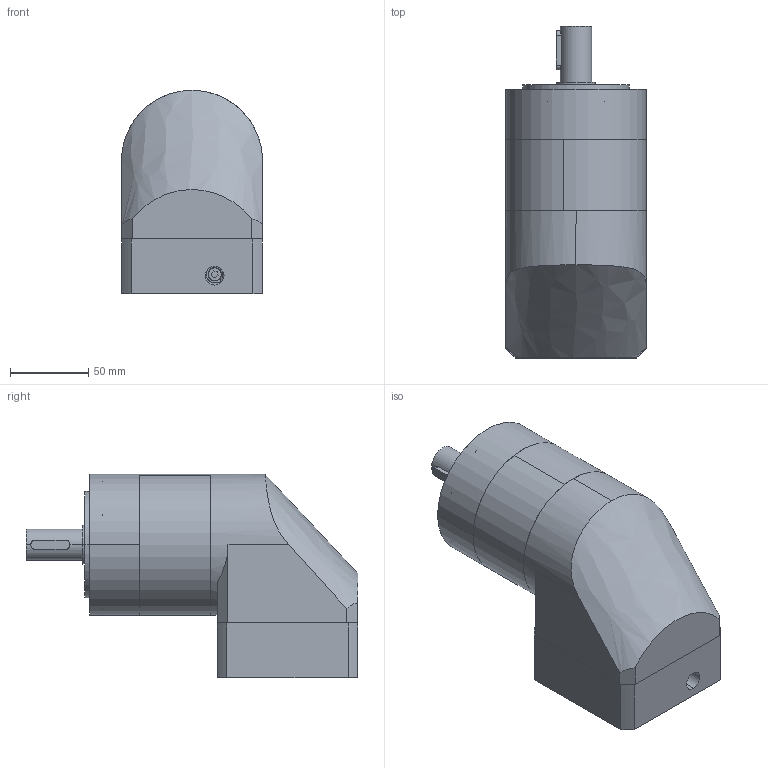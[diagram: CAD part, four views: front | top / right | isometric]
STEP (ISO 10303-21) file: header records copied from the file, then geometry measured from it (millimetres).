
FILE_DESCRIPTION (( 'STEP AP214' ), '1' );
FILE_NAME ('PER-090-L2-S2-P2 19-70-90-M5.STEP', '2023-08-30T09:08:24', ( '微软用户' ), ( '微软中国' ), 'SwSTEP 2.0', 'SolidWorks 2018', '' );
FILE_SCHEMA (( 'AUTOMOTIVE_DESIGN' ));
Length unit declared in the file: millimetre
Products named in the file (9): PER090-薊粣ん; 邧埴瑩 6x6x25; PER090 內齿圈-优化_二级内齿圈; PER-090-L2-S2-P2 19-70-90-M5; 粣創-3206A 30x62x23.8_2; PER090 奻屳唳; PER090- 眊极_揤翉; M5 x 20; PER090-蟀諉啣
Assembly tree (8 placements, depth 2):
  PER-090-L2-S2-P2 19-70-90-M5
    PER090- 眊极_揤翉
    PER090 內齿圈-优化_二级内齿圈
    PER090 奻屳唳
    PER090-蟀諉啣
    PER090-薊粣ん
    M5 x 20
    粣創-3206A 30x62x23.8_2
    邧埴瑩 6x6x25
Bounding box: 90 x 212 x 130 mm (x, y, z)
Volume: 1222789.6 mm3; surface area: 189819.2 mm2
Topology: 8 solids, 8 shells, 589 faces, 1626 edges, 1049 vertices
Faces by surface type: cylinder 216, plane 196, bspline 139, cone 38
Entity records: 29471 total; most frequent: CARTESIAN_POINT 8310, ORIENTED_EDGE 3196, DIRECTION 2792, EDGE_CURVE 1598, AXIS2_PLACEMENT_3D 1099, VERTEX_POINT 1049, EDGE_LOOP 681, CIRCLE 638
